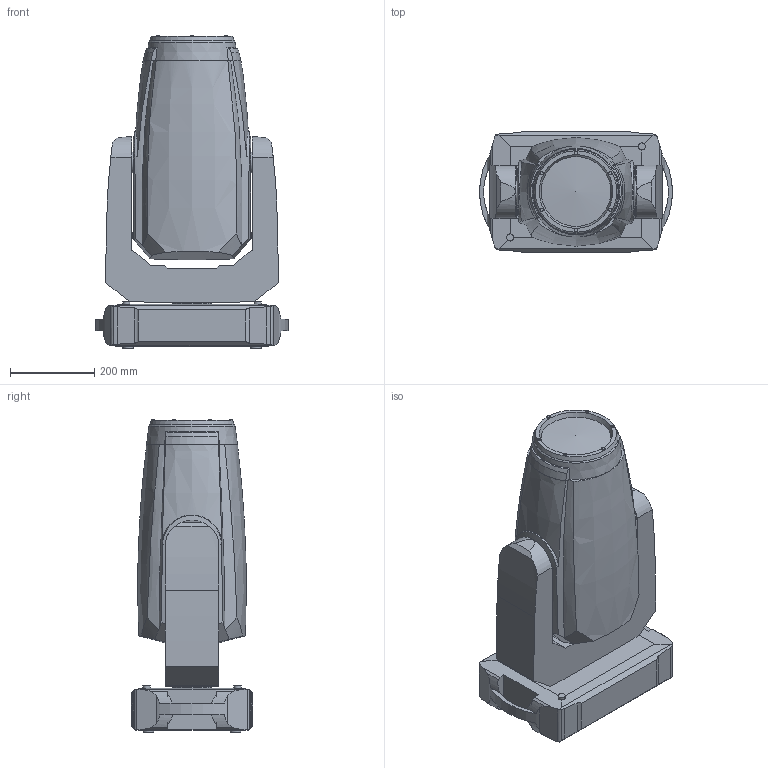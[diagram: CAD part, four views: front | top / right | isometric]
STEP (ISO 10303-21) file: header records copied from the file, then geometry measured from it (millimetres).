
FILE_DESCRIPTION(/* description */ ('Unknown'),/* implementation_level */ '2;1');
FILE_NAME(/* name */ '3D_Robin iEsprite Fresnel',/* time_stamp */ '2024-02-29T10:39:24+01:00',/* author */ ('Unknown'),/* organization */ ('Unknown'),/* preprocessor_version */ 'ST-DEVELOPER v18.104',/* originating_system */ 'Solid Edge',/* authorisation */ 'Unknown');
FILE_SCHEMA (('AUTOMOTIVE_DESIGN {1 0 10303 214 3 1 1}'));
Length unit declared in the file: millimetre
Products named in the file (4): 3D_Robin iEsprite Fresnel; iEsprite_Base; iEsprite_Arm; iEsprite_Head_Fresnel
Assembly tree (3 placements, depth 2):
  3D_Robin iEsprite Fresnel
    iEsprite_Base
    iEsprite_Arm
    iEsprite_Head_Fresnel
Bounding box: 457.87 x 289.25 x 744.1 mm (x, y, z)
Volume: 47581416.6 mm3; surface area: 1328390.2 mm2
Topology: 3 solids, 3 shells, 216 faces, 572 edges, 382 vertices
Faces by surface type: plane 105, cylinder 69, bspline 34, cone 6, torus 1, sphere 1
Full cylindrical faces by diameter (mm): 7.6 x6, 8.661 x8, 16.8 x2, 25.264 x4, 40 x1, 50 x2, 69 x1, 92.067 x1
Entity records: 13125 total; most frequent: CARTESIAN_POINT 8018, ORIENTED_EDGE 1066, DIRECTION 940, EDGE_CURVE 533, VERTEX_POINT 373, AXIS2_PLACEMENT_3D 355, EDGE_LOOP 272, FACE_BOUND 272
